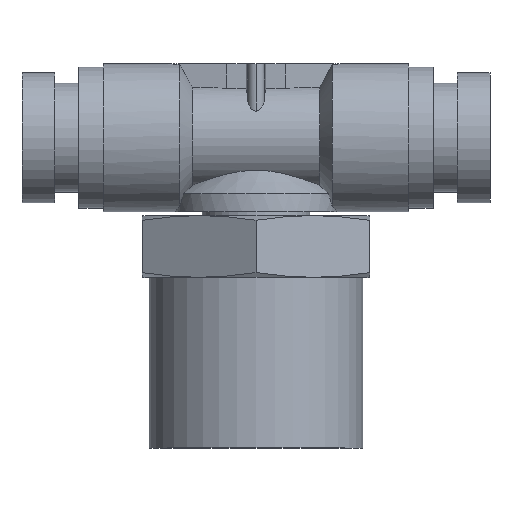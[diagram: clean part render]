
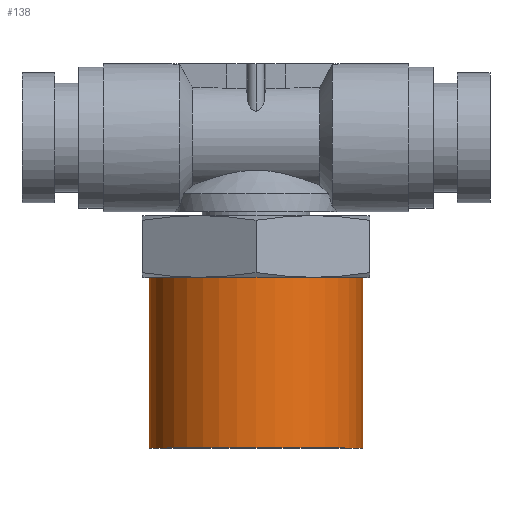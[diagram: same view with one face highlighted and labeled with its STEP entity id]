
A CAD part, top view. The second image highlights one B-rep face of the part: STEP entity #138.
In plain terms, the highlighted cylindrical face has radius 6.579 mm (diameter 13.157 mm), a partial arc.
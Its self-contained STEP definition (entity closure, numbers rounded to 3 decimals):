
#138 = ADVANCED_FACE( '', ( #289 ), #290, .T. );
#289 = FACE_OUTER_BOUND( '', #474, .T. );
#290 = CYLINDRICAL_SURFACE( '', #475, 6.579 );
#474 = EDGE_LOOP( '', ( #1008, #1009, #1010, #1011 ) );
#475 = AXIS2_PLACEMENT_3D( '', #1012, #1013, #1014 );
#1008 = ORIENTED_EDGE( '', *, *, #1233, .T. );
#1009 = ORIENTED_EDGE( '', *, *, #1377, .F. );
#1010 = ORIENTED_EDGE( '', *, *, #1235, .T. );
#1011 = ORIENTED_EDGE( '', *, *, #1376, .T. );
#1012 = CARTESIAN_POINT( '', ( 0., 0.5, 0. ) );
#1013 = DIRECTION( '', ( 0., -1., 0. ) );
#1014 = DIRECTION( '', ( 1., 0., 0. ) );
#1233 = EDGE_CURVE( '', #1470, #1471, #1472, .T. );
#1235 = EDGE_CURVE( '', #1475, #1473, #1476, .T. );
#1376 = EDGE_CURVE( '', #1473, #1470, #1705, .T. );
#1377 = EDGE_CURVE( '', #1475, #1471, #1706, .T. );
#1470 = VERTEX_POINT( '', #1830 );
#1471 = VERTEX_POINT( '', #1831 );
#1472 = LINE( '', #1832, #1833 );
#1473 = VERTEX_POINT( '', #1834 );
#1475 = VERTEX_POINT( '', #1836 );
#1476 = LINE( '', #1837, #1838 );
#1705 = CIRCLE( '', #2571, 6.579 );
#1706 = CIRCLE( '', #2572, 6.579 );
#1830 = CARTESIAN_POINT( '', ( 6.579, -4.75, 0. ) );
#1831 = CARTESIAN_POINT( '', ( 6.579, 5.75, 0. ) );
#1832 = CARTESIAN_POINT( '', ( 6.579, 0.5, 0. ) );
#1833 = VECTOR( '', #2678, 1. );
#1834 = CARTESIAN_POINT( '', ( -6.579, -4.75, 0. ) );
#1836 = CARTESIAN_POINT( '', ( -6.579, 5.75, 0. ) );
#1837 = CARTESIAN_POINT( '', ( -6.579, 0.5, 0. ) );
#1838 = VECTOR( '', #2682, 1. );
#2571 = AXIS2_PLACEMENT_3D( '', #2876, #2877, #2878 );
#2572 = AXIS2_PLACEMENT_3D( '', #2879, #2880, #2881 );
#2678 = DIRECTION( '', ( 0., 1., 0. ) );
#2682 = DIRECTION( '', ( 0., -1., 0. ) );
#2876 = CARTESIAN_POINT( '', ( 0., -4.75, 0. ) );
#2877 = DIRECTION( '', ( 0., 1., 0. ) );
#2878 = DIRECTION( '', ( 1., 0., 0. ) );
#2879 = CARTESIAN_POINT( '', ( 0., 5.75, 0. ) );
#2880 = DIRECTION( '', ( 0., 1., 0. ) );
#2881 = DIRECTION( '', ( 1., 0., 0. ) );
